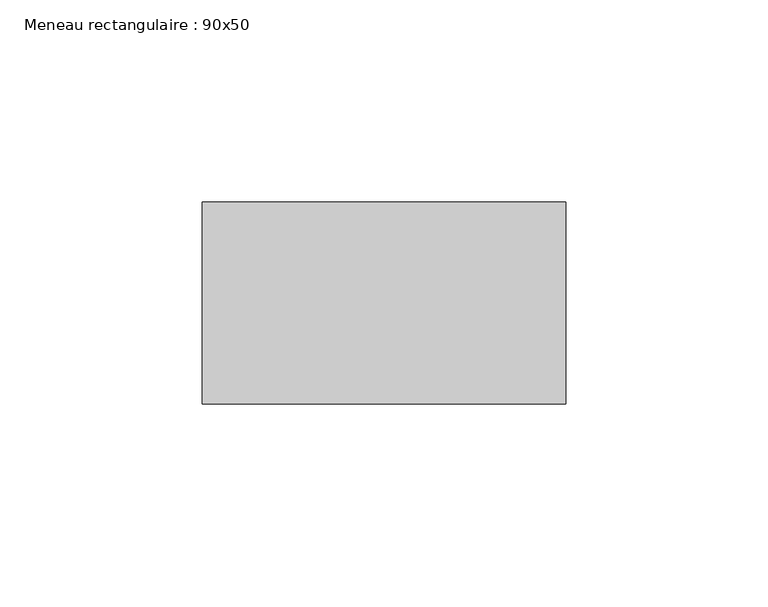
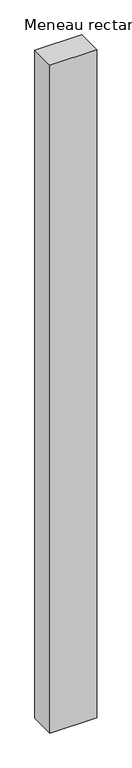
"""IFC4 building model written with IfcOpenShell, lengths in millimetres: member geometry, Meneau rectangulaire : 90x50."""

from ifc_helpers import new_model, si_unit, frame, origin, place, context, project, spatial, polyline, outline, extrude, source, transform, mapped, element, save


def meneau_rectangulaire_90x50_8608f2d6(model_context):
    return source(origin(), model_context, "Body", "SweptSolid", [
        extrude(outline(polyline([(0.0, 0.0), (0.0, -50.0), (-90.0, -50.0), (-90.0, 0.0), (0.0, 0.0)])), frame((0.0, 0.0, -1353.5677803), z_axis=(0.0, 0.0, 1.0), x_axis=(1.0, 0.0, 0.0)), (0.0, 0.0, 1.0), 1353.5677803),
    ])


if __name__ == "__main__":
    model = new_model("IFC4")
    model_context = context("Model", 3, world=origin())
    ifc_project = project(units=[si_unit("LENGTHUNIT", "METRE", prefix="MILLI")], contexts=[model_context])
    site = spatial("IfcSite", under=ifc_project)
    building = spatial("IfcBuilding", under=site)
    placement = place(None, origin())
    meneau_rectangulaire_90x50_shape = meneau_rectangulaire_90x50_8608f2d6(model_context)
    element("IfcMember", 1, ObjectType="Meneau rectangulaire : 90x50", at=placement, inside=building, context=model_context, shape_type="MappedRepresentation", body=[
        mapped(meneau_rectangulaire_90x50_shape, transform((0.0, 0.0, 0.0), x_axis=(1.0, 0.0, 0.0), y_axis=(0.0, 1.0, 0.0), z_axis=(0.0, 0.0, 1.0))),
    ])
    save(model, "model.ifc")
